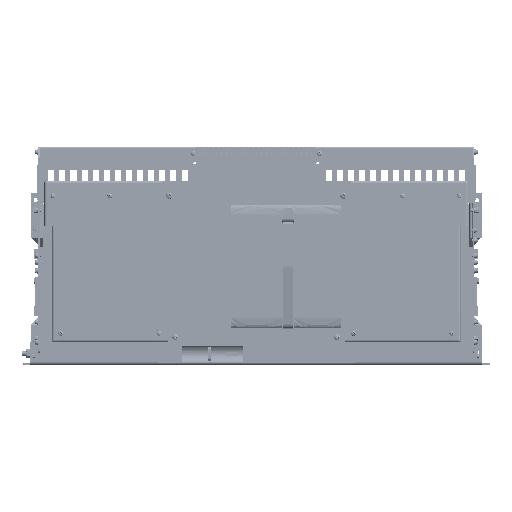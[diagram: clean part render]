
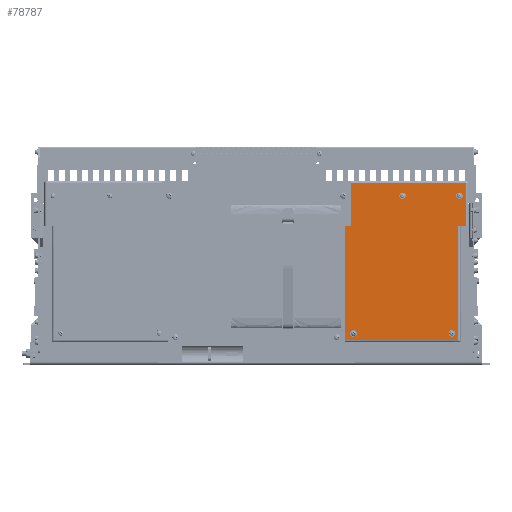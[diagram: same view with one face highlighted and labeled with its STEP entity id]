
A CAD part, top view. The second image highlights one B-rep face of the part: STEP entity #78787.
In plain terms, the highlighted planar face has unit normal (0, 0, 1) as drawn and (0, 0, -1) by its records, which use the part's own axes.
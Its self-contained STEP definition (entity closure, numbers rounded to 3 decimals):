
#351 = VERTEX_POINT ( 'NONE', #8913 ) ;
#1085 = EDGE_LOOP ( 'NONE', ( #33044, #52658, #73379, #69834, #17253, #45319, #64320, #25496 ) ) ;
#2060 = FACE_BOUND ( 'NONE', #35075, .T. ) ;
#2633 = EDGE_LOOP ( 'NONE', ( #74281, #64984 ) ) ;
#2815 = EDGE_LOOP ( 'NONE', ( #5719, #82029 ) ) ;
#2869 = FACE_BOUND ( 'NONE', #2633, .T. ) ;
#3103 = DIRECTION ( 'NONE',  ( 0., 0., 1. ) ) ;
#4991 = EDGE_CURVE ( 'NONE', #43878, #9998, #68597, .T. ) ;
#5262 = LINE ( 'NONE', #25181, #7275 ) ;
#5719 = ORIENTED_EDGE ( 'NONE', *, *, #24441, .T. ) ;
#6650 = LINE ( 'NONE', #32056, #38884 ) ;
#6767 = AXIS2_PLACEMENT_3D ( 'NONE', #36973, #21801, #66008 ) ;
#7275 = VECTOR ( 'NONE', #61940, 1000. ) ;
#7371 = CARTESIAN_POINT ( 'NONE',  ( 230., 5., 0. ) ) ;
#8081 = EDGE_CURVE ( 'NONE', #75057, #46081, #22676, .T. ) ;
#8156 = CARTESIAN_POINT ( 'NONE',  ( 9., 290., 0. ) ) ;
#8601 = EDGE_CURVE ( 'NONE', #60387, #42167, #64074, .T. ) ;
#8715 = FACE_BOUND ( 'NONE', #2815, .T. ) ;
#8913 = CARTESIAN_POINT ( 'NONE',  ( 108.5, 290., 0. ) ) ;
#9998 = VERTEX_POINT ( 'NONE', #51776 ) ;
#10182 = CARTESIAN_POINT ( 'NONE',  ( 217.5, 315., 0. ) ) ;
#10928 = DIRECTION ( 'NONE',  ( 0., 0., 1. ) ) ;
#12010 = CARTESIAN_POINT ( 'NONE',  ( 217.5, 230., 0. ) ) ;
#13079 = VERTEX_POINT ( 'NONE', #47940 ) ;
#14131 = DIRECTION ( 'NONE',  ( 1., 0., 0. ) ) ;
#14556 = DIRECTION ( 'NONE',  ( 0., 0., 1. ) ) ;
#17253 = ORIENTED_EDGE ( 'NONE', *, *, #58294, .F. ) ;
#17953 = AXIS2_PLACEMENT_3D ( 'NONE', #34739, #3103, #28500 ) ;
#17973 = DIRECTION ( 'NONE',  ( 1., 0., 0. ) ) ;
#18049 = VERTEX_POINT ( 'NONE', #31392 ) ;
#19429 = CARTESIAN_POINT ( 'NONE',  ( 0., 230., 0. ) ) ;
#19622 = EDGE_CURVE ( 'NONE', #18049, #64646, #6650, .T. ) ;
#20703 = ORIENTED_EDGE ( 'NONE', *, *, #57118, .T. ) ;
#21801 = DIRECTION ( 'NONE',  ( 0., 0., 1. ) ) ;
#22010 = PLANE ( 'NONE',  #41647 ) ;
#22419 = DIRECTION ( 'NONE',  ( 1., 0., 0. ) ) ;
#22676 = LINE ( 'NONE', #61461, #29340 ) ;
#23790 = ORIENTED_EDGE ( 'NONE', *, *, #8601, .T. ) ;
#24032 = VECTOR ( 'NONE', #55654, 1000. ) ;
#24441 = EDGE_CURVE ( 'NONE', #39392, #351, #71194, .T. ) ;
#24877 = VERTEX_POINT ( 'NONE', #74071 ) ;
#24942 = EDGE_CURVE ( 'NONE', #9998, #43878, #28681, .T. ) ;
#25181 = CARTESIAN_POINT ( 'NONE',  ( 230., 230., 0. ) ) ;
#25496 = ORIENTED_EDGE ( 'NONE', *, *, #33474, .F. ) ;
#26674 = VERTEX_POINT ( 'NONE', #7371 ) ;
#28500 = DIRECTION ( 'NONE',  ( 1., 0., 0. ) ) ;
#28681 = CIRCLE ( 'NONE', #32688, 6.5 ) ;
#29067 = ORIENTED_EDGE ( 'NONE', *, *, #48992, .T. ) ;
#29340 = VECTOR ( 'NONE', #61883, 1000. ) ;
#30333 = VECTOR ( 'NONE', #55176, 1000. ) ;
#31392 = CARTESIAN_POINT ( 'NONE',  ( 5., 230., 0. ) ) ;
#32056 = CARTESIAN_POINT ( 'NONE',  ( 5., 0., 0. ) ) ;
#32688 = AXIS2_PLACEMENT_3D ( 'NONE', #79897, #48289, #22419 ) ;
#33044 = ORIENTED_EDGE ( 'NONE', *, *, #19622, .F. ) ;
#33474 = EDGE_CURVE ( 'NONE', #64646, #26674, #49725, .T. ) ;
#34124 = DIRECTION ( 'NONE',  ( 0., 0., 1. ) ) ;
#34739 = CARTESIAN_POINT ( 'NONE',  ( 115., 290., 0. ) ) ;
#34771 = VECTOR ( 'NONE', #80955, 1000. ) ;
#35075 = EDGE_LOOP ( 'NONE', ( #23790, #29067 ) ) ;
#36137 = VERTEX_POINT ( 'NONE', #10182 ) ;
#36378 = CARTESIAN_POINT ( 'NONE',  ( 17.5, 17.5, 0. ) ) ;
#36832 = CARTESIAN_POINT ( 'NONE',  ( -15., 315., 0. ) ) ;
#36973 = CARTESIAN_POINT ( 'NONE',  ( 17.5, 17.5, 0. ) ) ;
#37200 = CIRCLE ( 'NONE', #77140, 6.5 ) ;
#37254 = EDGE_CURVE ( 'NONE', #36137, #75057, #48944, .T. ) ;
#38884 = VECTOR ( 'NONE', #49174, 1000. ) ;
#38914 = AXIS2_PLACEMENT_3D ( 'NONE', #51667, #14556, #64602 ) ;
#39392 = VERTEX_POINT ( 'NONE', #47915 ) ;
#39761 = DIRECTION ( 'NONE',  ( 1., 0., 0. ) ) ;
#40593 = CARTESIAN_POINT ( 'NONE',  ( 115., 290., 0. ) ) ;
#40765 = CARTESIAN_POINT ( 'NONE',  ( 0., 0., 0. ) ) ;
#40874 = AXIS2_PLACEMENT_3D ( 'NONE', #36378, #68872, #74266 ) ;
#41602 = CARTESIAN_POINT ( 'NONE',  ( 24., 17.5, 0. ) ) ;
#41647 = AXIS2_PLACEMENT_3D ( 'NONE', #40765, #34124, #14131 ) ;
#41921 = AXIS2_PLACEMENT_3D ( 'NONE', #68010, #10928, #17973 ) ;
#41970 = VERTEX_POINT ( 'NONE', #70764 ) ;
#42167 = VERTEX_POINT ( 'NONE', #76853 ) ;
#42641 = CARTESIAN_POINT ( 'NONE',  ( 230., 5., 0. ) ) ;
#42691 = CIRCLE ( 'NONE', #6767, 6.5 ) ;
#43188 = EDGE_LOOP ( 'NONE', ( #20703, #55384 ) ) ;
#43667 = LINE ( 'NONE', #12010, #44022 ) ;
#43878 = VERTEX_POINT ( 'NONE', #47613 ) ;
#44022 = VECTOR ( 'NONE', #69085, 1000. ) ;
#44849 = EDGE_CURVE ( 'NONE', #351, #39392, #37200, .T. ) ;
#45319 = ORIENTED_EDGE ( 'NONE', *, *, #71632, .F. ) ;
#45801 = FACE_BOUND ( 'NONE', #43188, .T. ) ;
#46081 = VERTEX_POINT ( 'NONE', #65232 ) ;
#47036 = FACE_OUTER_BOUND ( 'NONE', #1085, .T. ) ;
#47613 = CARTESIAN_POINT ( 'NONE',  ( 219., 17.5, 0. ) ) ;
#47915 = CARTESIAN_POINT ( 'NONE',  ( 121.5, 290., 0. ) ) ;
#47940 = CARTESIAN_POINT ( 'NONE',  ( 230., 230., 0. ) ) ;
#48289 = DIRECTION ( 'NONE',  ( 0., 0., 1. ) ) ;
#48944 = LINE ( 'NONE', #36832, #34771 ) ;
#48992 = EDGE_CURVE ( 'NONE', #42167, #60387, #66920, .T. ) ;
#49174 = DIRECTION ( 'NONE',  ( 0., -1., 0. ) ) ;
#49725 = LINE ( 'NONE', #42641, #30333 ) ;
#50230 = CIRCLE ( 'NONE', #40874, 6.5 ) ;
#51192 = DIRECTION ( 'NONE',  ( 1., 0., 0. ) ) ;
#51667 = CARTESIAN_POINT ( 'NONE',  ( 2.5, 290., 0. ) ) ;
#51776 = CARTESIAN_POINT ( 'NONE',  ( 206., 17.5, 0. ) ) ;
#51872 = DIRECTION ( 'NONE',  ( 0., 0., 1. ) ) ;
#51937 = LINE ( 'NONE', #19429, #61491 ) ;
#52658 = ORIENTED_EDGE ( 'NONE', *, *, #72704, .F. ) ;
#55176 = DIRECTION ( 'NONE',  ( 1., 0., 0. ) ) ;
#55384 = ORIENTED_EDGE ( 'NONE', *, *, #67748, .T. ) ;
#55654 = DIRECTION ( 'NONE',  ( 0., 1., 0. ) ) ;
#57118 = EDGE_CURVE ( 'NONE', #68415, #24877, #42691, .T. ) ;
#57854 = CARTESIAN_POINT ( 'NONE',  ( 2.5, 290., 0. ) ) ;
#58294 = EDGE_CURVE ( 'NONE', #41970, #36137, #63148, .T. ) ;
#60387 = VERTEX_POINT ( 'NONE', #8156 ) ;
#61228 = EDGE_CURVE ( 'NONE', #26674, #13079, #5262, .T. ) ;
#61461 = CARTESIAN_POINT ( 'NONE',  ( -10., 230., 0. ) ) ;
#61491 = VECTOR ( 'NONE', #75665, 1000. ) ;
#61883 = DIRECTION ( 'NONE',  ( 0., -1., 0. ) ) ;
#61931 = CARTESIAN_POINT ( 'NONE',  ( 217.5, 320., 0. ) ) ;
#61940 = DIRECTION ( 'NONE',  ( 0., 1., 0. ) ) ;
#63148 = LINE ( 'NONE', #61931, #24032 ) ;
#64074 = CIRCLE ( 'NONE', #73324, 6.5 ) ;
#64320 = ORIENTED_EDGE ( 'NONE', *, *, #61228, .F. ) ;
#64535 = DIRECTION ( 'NONE',  ( 0., 0., 1. ) ) ;
#64602 = DIRECTION ( 'NONE',  ( 1., 0., 0. ) ) ;
#64646 = VERTEX_POINT ( 'NONE', #65585 ) ;
#64984 = ORIENTED_EDGE ( 'NONE', *, *, #24942, .T. ) ;
#65232 = CARTESIAN_POINT ( 'NONE',  ( -10., 230., 0. ) ) ;
#65585 = CARTESIAN_POINT ( 'NONE',  ( 5., 5., 0. ) ) ;
#66008 = DIRECTION ( 'NONE',  ( 1., 0., 0. ) ) ;
#66920 = CIRCLE ( 'NONE', #38914, 6.5 ) ;
#67748 = EDGE_CURVE ( 'NONE', #24877, #68415, #50230, .T. ) ;
#68010 = CARTESIAN_POINT ( 'NONE',  ( 212.5, 17.5, 0. ) ) ;
#68415 = VERTEX_POINT ( 'NONE', #41602 ) ;
#68597 = CIRCLE ( 'NONE', #41921, 6.5 ) ;
#68872 = DIRECTION ( 'NONE',  ( 0., 0., 1. ) ) ;
#69085 = DIRECTION ( 'NONE',  ( -1., 0., 0. ) ) ;
#69834 = ORIENTED_EDGE ( 'NONE', *, *, #37254, .F. ) ;
#70764 = CARTESIAN_POINT ( 'NONE',  ( 217.5, 230., 0. ) ) ;
#71194 = CIRCLE ( 'NONE', #17953, 6.5 ) ;
#71632 = EDGE_CURVE ( 'NONE', #13079, #41970, #43667, .T. ) ;
#72704 = EDGE_CURVE ( 'NONE', #46081, #18049, #51937, .T. ) ;
#73324 = AXIS2_PLACEMENT_3D ( 'NONE', #57854, #64535, #51192 ) ;
#73379 = ORIENTED_EDGE ( 'NONE', *, *, #8081, .F. ) ;
#74071 = CARTESIAN_POINT ( 'NONE',  ( 11., 17.5, 0. ) ) ;
#74266 = DIRECTION ( 'NONE',  ( 1., 0., 0. ) ) ;
#74281 = ORIENTED_EDGE ( 'NONE', *, *, #4991, .T. ) ;
#75057 = VERTEX_POINT ( 'NONE', #77461 ) ;
#75665 = DIRECTION ( 'NONE',  ( 1., 0., 0. ) ) ;
#76853 = CARTESIAN_POINT ( 'NONE',  ( -4., 290., 0. ) ) ;
#77140 = AXIS2_PLACEMENT_3D ( 'NONE', #40593, #51872, #39761 ) ;
#77461 = CARTESIAN_POINT ( 'NONE',  ( -10., 315., 0. ) ) ;
#78787 = ADVANCED_FACE ( 'NONE', ( #2060, #2869, #45801, #8715, #47036 ), #22010, .F. ) ;
#79897 = CARTESIAN_POINT ( 'NONE',  ( 212.5, 17.5, 0. ) ) ;
#80955 = DIRECTION ( 'NONE',  ( -1., 0., 0. ) ) ;
#82029 = ORIENTED_EDGE ( 'NONE', *, *, #44849, .T. ) ;
